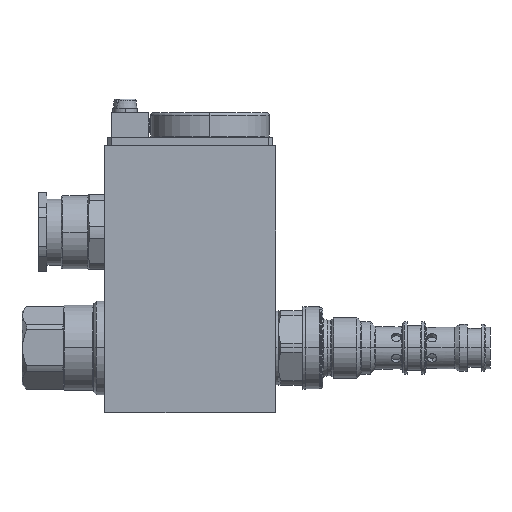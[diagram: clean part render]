
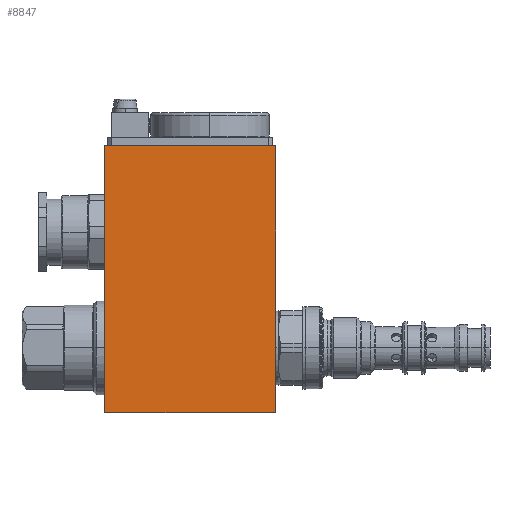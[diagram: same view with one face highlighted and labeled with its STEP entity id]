
A CAD part, top view. The second image highlights one B-rep face of the part: STEP entity #8847.
In plain terms, the highlighted planar face has unit normal (0, 0, 1).
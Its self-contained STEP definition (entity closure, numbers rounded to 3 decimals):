
#403 = ORIENTED_EDGE ( 'NONE', *, *, #4805, .F. ) ;
#1628 = DIRECTION ( 'NONE',  ( 1., 0., 0. ) ) ;
#1684 = CARTESIAN_POINT ( 'NONE',  ( 0., -23.5, 23.5 ) ) ;
#2216 = ORIENTED_EDGE ( 'NONE', *, *, #12026, .T. ) ;
#3276 = PLANE ( 'NONE',  #10216 ) ;
#3551 = CARTESIAN_POINT ( 'NONE',  ( 0., 73.3, 23.5 ) ) ;
#3833 = CARTESIAN_POINT ( 'NONE',  ( -62., -23.5, 23.5 ) ) ;
#4777 = FACE_OUTER_BOUND ( 'NONE', #6300, .T. ) ;
#4805 = EDGE_CURVE ( 'NONE', #13082, #10865, #5566, .T. ) ;
#5566 = LINE ( 'NONE', #17015, #7837 ) ;
#6300 = EDGE_LOOP ( 'NONE', ( #403, #2216, #13677, #7621 ) ) ;
#7621 = ORIENTED_EDGE ( 'NONE', *, *, #13732, .F. ) ;
#7837 = VECTOR ( 'NONE', #17217, 1000. ) ;
#8847 = ADVANCED_FACE ( 'NONE', ( #4777 ), #3276, .T. ) ;
#9142 = LINE ( 'NONE', #14076, #13736 ) ;
#9797 = CARTESIAN_POINT ( 'NONE',  ( 107.607, -23.5, 23.5 ) ) ;
#10216 = AXIS2_PLACEMENT_3D ( 'NONE', #9797, #13126, #1628 ) ;
#10865 = VERTEX_POINT ( 'NONE', #1684 ) ;
#12026 = EDGE_CURVE ( 'NONE', #13082, #15432, #13168, .T. ) ;
#13082 = VERTEX_POINT ( 'NONE', #3551 ) ;
#13126 = DIRECTION ( 'NONE',  ( 0., 0., 1. ) ) ;
#13168 = LINE ( 'NONE', #19333, #18922 ) ;
#13677 = ORIENTED_EDGE ( 'NONE', *, *, #20589, .F. ) ;
#13732 = EDGE_CURVE ( 'NONE', #10865, #15019, #9142, .T. ) ;
#13736 = VECTOR ( 'NONE', #20551, 1000. ) ;
#14076 = CARTESIAN_POINT ( 'NONE',  ( 107.607, -23.5, 23.5 ) ) ;
#15019 = VERTEX_POINT ( 'NONE', #3833 ) ;
#15294 = VECTOR ( 'NONE', #17724, 1000. ) ;
#15432 = VERTEX_POINT ( 'NONE', #19488 ) ;
#17015 = CARTESIAN_POINT ( 'NONE',  ( 0., -23.5, 23.5 ) ) ;
#17217 = DIRECTION ( 'NONE',  ( 0., -1., 0. ) ) ;
#17302 = LINE ( 'NONE', #20594, #15294 ) ;
#17724 = DIRECTION ( 'NONE',  ( 0., 1., 0. ) ) ;
#17842 = DIRECTION ( 'NONE',  ( -1., 0., 0. ) ) ;
#18922 = VECTOR ( 'NONE', #17842, 1000. ) ;
#19333 = CARTESIAN_POINT ( 'NONE',  ( 107.607, 73.3, 23.5 ) ) ;
#19488 = CARTESIAN_POINT ( 'NONE',  ( -62., 73.3, 23.5 ) ) ;
#20551 = DIRECTION ( 'NONE',  ( -1., 0., 0. ) ) ;
#20589 = EDGE_CURVE ( 'NONE', #15019, #15432, #17302, .T. ) ;
#20594 = CARTESIAN_POINT ( 'NONE',  ( -62., -23.5, 23.5 ) ) ;
